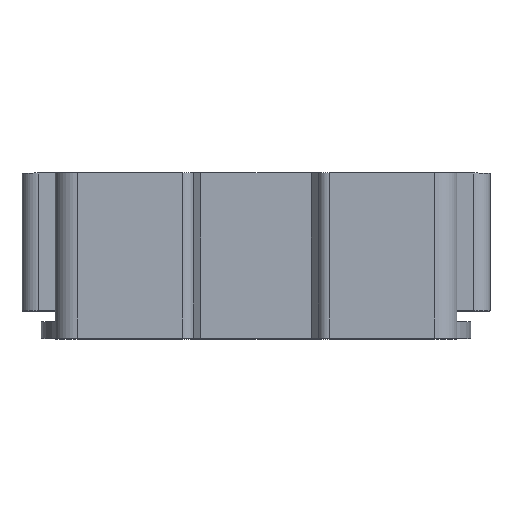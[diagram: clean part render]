
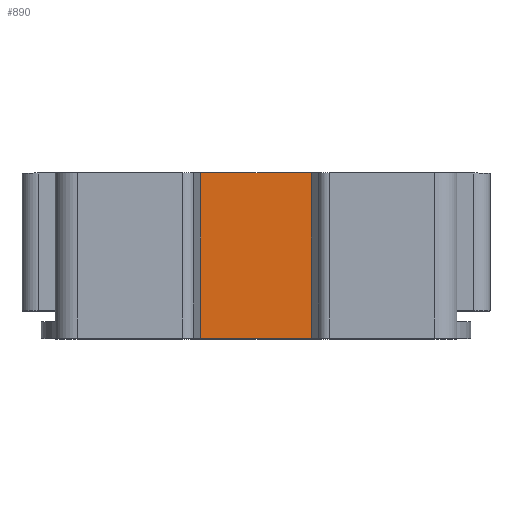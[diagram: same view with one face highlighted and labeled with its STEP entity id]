
A CAD part, top view. The second image highlights one B-rep face of the part: STEP entity #890.
In plain terms, the highlighted planar face has unit normal (0, 0, 1).
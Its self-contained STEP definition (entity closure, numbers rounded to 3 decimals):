
#12 = VERTEX_POINT ( 'NONE', #1801 ) ;
#56 = VECTOR ( 'NONE', #1045, 1000. ) ;
#136 = DIRECTION ( 'NONE',  ( -1., 0., 0. ) ) ;
#188 = VECTOR ( 'NONE', #1442, 1000. ) ;
#295 = FACE_OUTER_BOUND ( 'NONE', #1917, .T. ) ;
#340 = CARTESIAN_POINT ( 'NONE',  ( -1.621, 1804.96, 5.204 ) ) ;
#372 = ORIENTED_EDGE ( 'NONE', *, *, #804, .F. ) ;
#549 = DIRECTION ( 'NONE',  ( 0., 1., 0. ) ) ;
#589 = DIRECTION ( 'NONE',  ( 0., 0., 1. ) ) ;
#603 = EDGE_CURVE ( 'NONE', #638, #1621, #634, .T. ) ;
#632 = VECTOR ( 'NONE', #549, 1000. ) ;
#634 = LINE ( 'NONE', #1270, #56 ) ;
#638 = VERTEX_POINT ( 'NONE', #1276 ) ;
#804 = EDGE_CURVE ( 'NONE', #12, #1124, #2362, .T. ) ;
#826 = VECTOR ( 'NONE', #136, 1000. ) ;
#876 = LINE ( 'NONE', #2279, #826 ) ;
#890 = ADVANCED_FACE ( 'NONE', ( #295 ), #1008, .T. ) ;
#971 = AXIS2_PLACEMENT_3D ( 'NONE', #1891, #589, #2113 ) ;
#1008 = PLANE ( 'NONE',  #971 ) ;
#1045 = DIRECTION ( 'NONE',  ( 0., 1., 0. ) ) ;
#1124 = VERTEX_POINT ( 'NONE', #1149 ) ;
#1149 = CARTESIAN_POINT ( 'NONE',  ( -1.621, 1804.96, 5.204 ) ) ;
#1270 = CARTESIAN_POINT ( 'NONE',  ( 0.379, 1801.96, 5.204 ) ) ;
#1276 = CARTESIAN_POINT ( 'NONE',  ( 0.379, 1801.96, 5.204 ) ) ;
#1420 = CARTESIAN_POINT ( 'NONE',  ( 0.379, 1804.96, 5.204 ) ) ;
#1442 = DIRECTION ( 'NONE',  ( -1., 0., 0. ) ) ;
#1620 = EDGE_CURVE ( 'NONE', #1621, #1124, #876, .T. ) ;
#1621 = VERTEX_POINT ( 'NONE', #1420 ) ;
#1801 = CARTESIAN_POINT ( 'NONE',  ( -1.621, 1801.96, 5.204 ) ) ;
#1871 = ORIENTED_EDGE ( 'NONE', *, *, #603, .T. ) ;
#1891 = CARTESIAN_POINT ( 'NONE',  ( 0.379, 1801.96, 5.204 ) ) ;
#1914 = EDGE_CURVE ( 'NONE', #638, #12, #2480, .T. ) ;
#1917 = EDGE_LOOP ( 'NONE', ( #2127, #1871, #2789, #372 ) ) ;
#2087 = CARTESIAN_POINT ( 'NONE',  ( -7.119, 1801.96, 5.204 ) ) ;
#2113 = DIRECTION ( 'NONE',  ( 1., 0., 0. ) ) ;
#2127 = ORIENTED_EDGE ( 'NONE', *, *, #1914, .F. ) ;
#2279 = CARTESIAN_POINT ( 'NONE',  ( 0.379, 1804.96, 5.204 ) ) ;
#2362 = LINE ( 'NONE', #340, #632 ) ;
#2480 = LINE ( 'NONE', #2087, #188 ) ;
#2789 = ORIENTED_EDGE ( 'NONE', *, *, #1620, .T. ) ;
